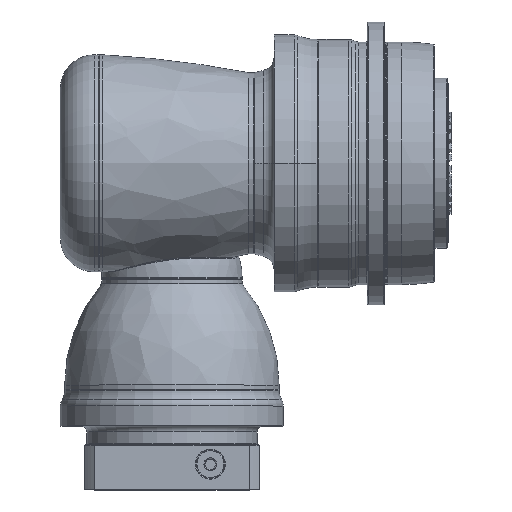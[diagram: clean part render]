
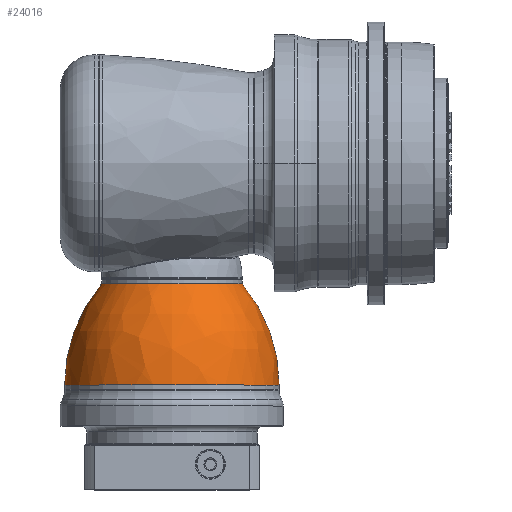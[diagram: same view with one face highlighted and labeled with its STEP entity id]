
A CAD part, top view. The second image highlights one B-rep face of the part: STEP entity #24016.
In plain terms, the highlighted free-form (B-spline) face has degree [3, 3] with [7, 4] control points.
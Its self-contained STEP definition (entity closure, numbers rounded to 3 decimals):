
#23801=CARTESIAN_POINT('',(-5.,0.,0.));
#23802=DIRECTION('',(1.,0.,0.));
#23803=DIRECTION('',(0.,1.,0.));
#23804=AXIS2_PLACEMENT_3D('',#23801,#23802,#23803);
#23806=CARTESIAN_POINT('',(-123.861,0.,0.));
#23807=DIRECTION('',(-1.,0.,0.));
#23808=DIRECTION('',(0.,-1.,0.));
#23809=AXIS2_PLACEMENT_3D('',#23806,#23807,#23808);
#23811=CARTESIAN_POINT('',(-5.,-58.52,0.));
#23812=DIRECTION('',(0.,0.,-1.));
#23813=DIRECTION('',(-0.644,0.765,0.));
#23814=AXIS2_PLACEMENT_3D('',#23811,#23812,#23813);
#23816=CARTESIAN_POINT('',(-5.,58.52,0.));
#23817=DIRECTION('',(0.,0.,1.));
#23818=DIRECTION('',(-0.644,-0.765,0.));
#23819=AXIS2_PLACEMENT_3D('',#23816,#23817,#23818);
#23882=CARTESIAN_POINT('',(-5.,126.,0.));
#23883=CARTESIAN_POINT('',(-5.,-126.,0.));
#23884=VERTEX_POINT('',#23882);
#23885=VERTEX_POINT('',#23883);
#23886=CARTESIAN_POINT('',(-123.861,82.618,0.));
#23887=CARTESIAN_POINT('',(-123.861,-82.618,
0.));
#23888=VERTEX_POINT('',#23886);
#23889=VERTEX_POINT('',#23887);
#23978=CARTESIAN_POINT('',(-2.417,-125.733,
-7.91));
#23979=CARTESIAN_POINT('',(-48.202,-126.373,
-7.951));
#23980=CARTESIAN_POINT('',(-91.217,-110.704,
-6.965));
#23981=CARTESIAN_POINT('',(-125.825,-80.78,
-5.082));
#23982=CARTESIAN_POINT('',(-2.417,-130.601,
69.466));
#23983=CARTESIAN_POINT('',(-48.202,-131.266,
69.819));
#23984=CARTESIAN_POINT('',(-91.217,-114.991,
61.162));
#23985=CARTESIAN_POINT('',(-125.825,-83.908,
44.63));
#23986=CARTESIAN_POINT('',(-2.417,-77.529,
125.982));
#23987=CARTESIAN_POINT('',(-48.202,-77.924,
126.623));
#23988=CARTESIAN_POINT('',(-91.217,-68.262,
110.923));
#23989=CARTESIAN_POINT('',(-125.825,-49.81,
80.94));
#23990=CARTESIAN_POINT('',(-2.417,0.,
125.982));
#23991=CARTESIAN_POINT('',(-48.202,0.,
126.623));
#23992=CARTESIAN_POINT('',(-91.217,0.,
110.923));
#23993=CARTESIAN_POINT('',(-125.825,0.,
80.94));
#23994=CARTESIAN_POINT('',(-2.417,77.529,
125.982));
#23995=CARTESIAN_POINT('',(-48.202,77.924,
126.623));
#23996=CARTESIAN_POINT('',(-91.217,68.262,
110.923));
#23997=CARTESIAN_POINT('',(-125.825,49.81,
80.94));
#23998=CARTESIAN_POINT('',(-2.417,130.601,
69.466));
#23999=CARTESIAN_POINT('',(-48.202,131.266,
69.819));
#24000=CARTESIAN_POINT('',(-91.217,114.991,
61.162));
#24001=CARTESIAN_POINT('',(-125.825,83.908,
44.63));
#24002=CARTESIAN_POINT('',(-2.417,125.733,
-7.91));
#24003=CARTESIAN_POINT('',(-48.202,126.373,
-7.951));
#24004=CARTESIAN_POINT('',(-91.217,110.704,
-6.965));
#24005=CARTESIAN_POINT('',(-125.825,80.78,
-5.082));
#24006=(BOUNDED_SURFACE()B_SPLINE_SURFACE(3,3,((#23978,#23979,#23980,#23981),(
#23982,#23983,#23984,#23985),(#23986,#23987,#23988,#23989),(#23990,#23991,
#23992,#23993),(#23994,#23995,#23996,#23997),(#23998,#23999,#24000,#24001),(
#24002,#24003,#24004,#24005)),.UNSPECIFIED.,.F.,.F.,.F.)B_SPLINE_SURFACE_WITH_KNOTS((4,3,4),(4,4),(0.,1.,2.),(0.,1.),.UNSPECIFIED.)GEOMETRIC_REPRESENTATION_ITEM()RATIONAL_B_SPLINE_SURFACE(((1.227,1.174,
1.174,1.227),(0.969,0.927,
0.927,0.969),(0.969,0.927,
0.927,0.969),(1.227,1.174,
1.174,1.227),(0.969,0.927,
0.927,0.969),(0.969,0.927,
0.927,0.969),(1.227,1.174,
1.174,1.227)))REPRESENTATION_ITEM('')SURFACE());
#24008=ORIENTED_EDGE('',*,*,#24007,.T.);
#24010=ORIENTED_EDGE('',*,*,#24009,.T.);
#24011=ORIENTED_EDGE('',*,*,#23972,.T.);
#24013=ORIENTED_EDGE('',*,*,#24012,.F.);
#24014=EDGE_LOOP('',(#24008,#24010,#24011,#24013));
#24015=FACE_OUTER_BOUND('',#24014,.F.);
#24016=ADVANCED_FACE('',(#24015),#24006,.T.);
#23805=CIRCLE('',#23804,126.);
#23810=CIRCLE('',#23809,82.618);
#23815=CIRCLE('',#23814,184.52);
#23820=CIRCLE('',#23819,184.52);
#23972=EDGE_CURVE('',#23884,#23885,#23805,.T.);
#24007=EDGE_CURVE('',#23889,#23888,#23810,.T.);
#24009=EDGE_CURVE('',#23888,#23884,#23815,.T.);
#24012=EDGE_CURVE('',#23889,#23885,#23820,.T.);
